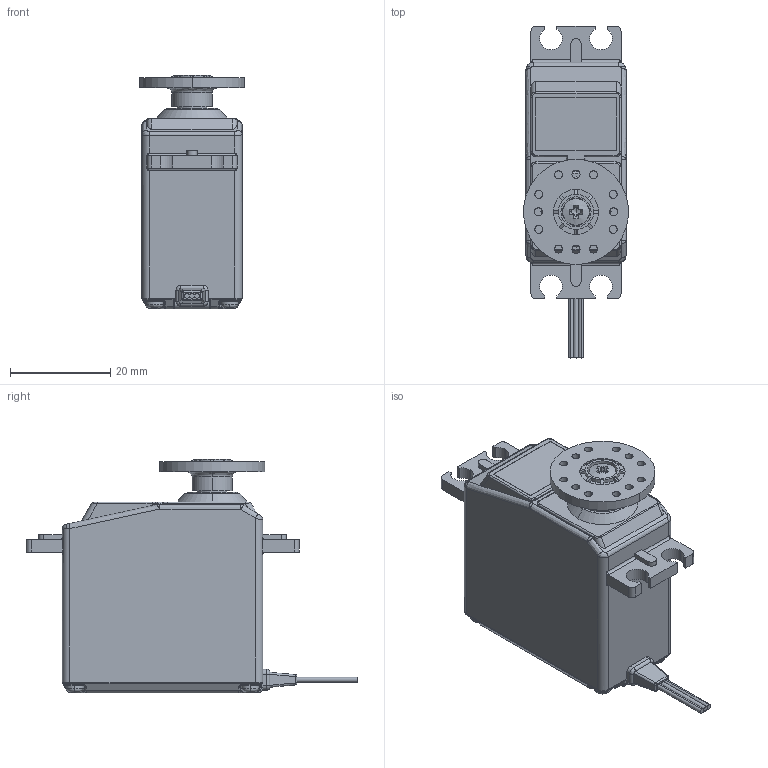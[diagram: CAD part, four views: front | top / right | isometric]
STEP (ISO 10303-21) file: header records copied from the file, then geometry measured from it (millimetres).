
FILE_DESCRIPTION (( 'STEP AP203' ), '1' );
FILE_NAME ('AD20-06H-B01(3D).STEP', '2022-12-06T07:11:55', ( '' ), ( '' ), 'SwSTEP 2.0', 'SolidWorks 2022', '' );
FILE_SCHEMA (( 'CONFIG_CONTROL_DESIGN' ));
Length unit declared in the file: millimetre
Products named in the file (4): AD20-06H-B01; HORN; AD20-06H-B01(3D); TAPPING SCREW M2.6x10
Assembly tree (3 placements, depth 2):
  AD20-06H-B01(3D)
    AD20-06H-B01
    HORN
    TAPPING SCREW M2.6x10
Bounding box: 21 x 66.25 x 46.66 mm (x, y, z)
Volume: 31346.3 mm3; surface area: 8031.7 mm2
Topology: 3 solids, 3 shells, 478 faces, 1187 edges, 725 vertices
Faces by surface type: cylinder 193, plane 144, bspline 97, cone 36, torus 8
Entity records: 20052 total; most frequent: CARTESIAN_POINT 8751, ORIENTED_EDGE 2370, DIRECTION 2203, EDGE_CURVE 1185, AXIS2_PLACEMENT_3D 852, VERTEX_POINT 725, EDGE_LOOP 516, VECTOR 499
